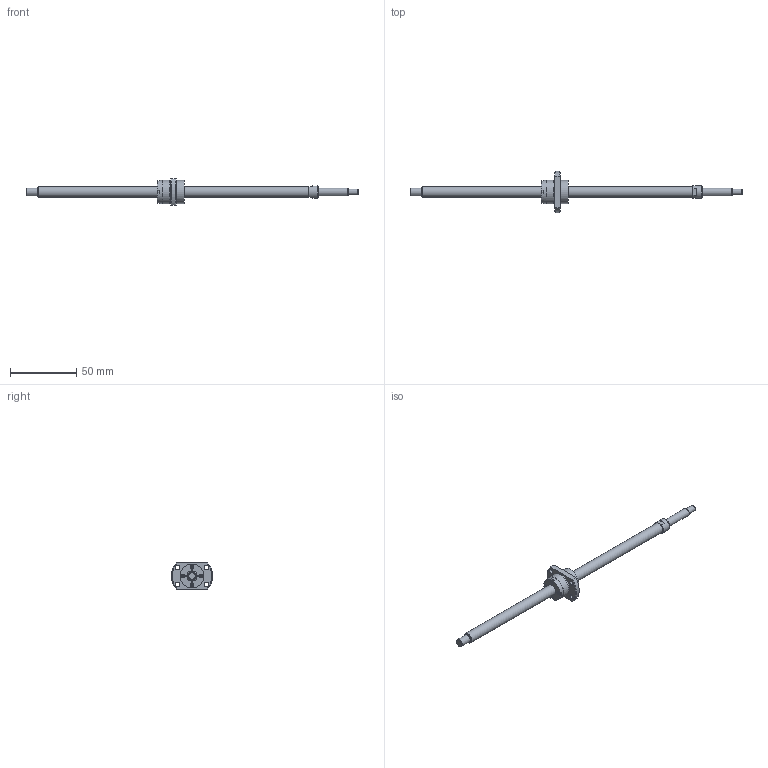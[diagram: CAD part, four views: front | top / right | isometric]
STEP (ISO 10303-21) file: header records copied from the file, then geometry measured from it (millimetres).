
FILE_DESCRIPTION(/* description */ ('STEP AP214'),/* implementation_level */ '2;1');
FILE_NAME(/* name */ 'SG0808-200R250C5C0X(90)',/* time_stamp */ '2026-07-21T16:53:30+02:00',/* author */ ('License CC BY-ND 4.0'),/* organization */ ('CADENAS'),/* preprocessor_version */ 'ST-DEVELOPER v20',/* originating_system */ 'PARTsolutions',/* authorisation */ ' ');
FILE_SCHEMA (('AUTOMOTIVE_DESIGN {1 0 10303 214 3 1 1}'));
Length unit declared in the file: millimetre
Products named in the file (3): SG0808-200R250C5C0X(90); SG0808-200R250C5C_shaft; SG0808 C5_nut
Assembly tree (2 placements, depth 2):
  SG0808-200R250C5C0X(90)
    SG0808-200R250C5C_shaft
    SG0808 C5_nut
Bounding box: 250 x 30.91 x 20 mm (x, y, z)
Volume: 16767.2 mm3; surface area: 9115.9 mm2
Topology: 2 solids, 2 shells, 103 faces, 236 edges, 153 vertices
Faces by surface type: plane 64, cylinder 25, cone 13, torus 1
Full cylindrical faces by diameter (mm): 2.25 x4, 3.4 x4, 4.5 x1, 6 x2, 8 x2, 9.5 x1, 17.45 x3, 18 x2
Entity records: 2841 total; most frequent: CARTESIAN_POINT 486, DIRECTION 484, ORIENTED_EDGE 410, EDGE_CURVE 205, AXIS2_PLACEMENT_3D 181, EDGE_LOOP 158, FACE_BOUND 158, VERTEX_POINT 151
